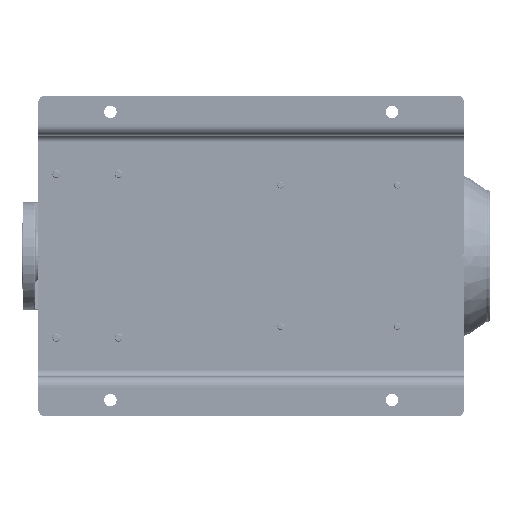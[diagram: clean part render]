
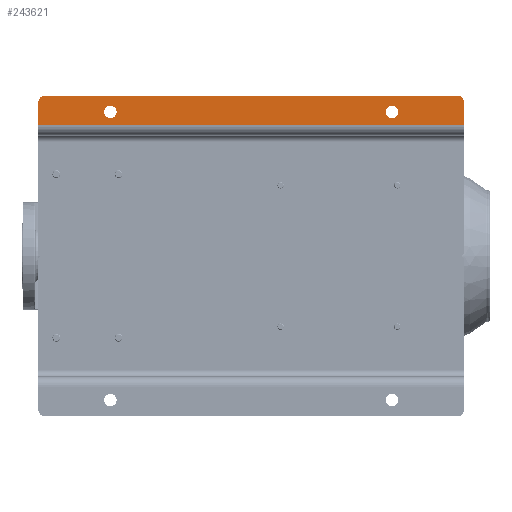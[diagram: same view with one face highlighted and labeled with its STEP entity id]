
A CAD part, front view. The second image highlights one B-rep face of the part: STEP entity #243621.
In plain terms, the highlighted planar face has unit normal (0, -1, 0).
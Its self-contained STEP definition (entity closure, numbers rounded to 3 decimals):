
#2908 = VERTEX_POINT ( 'NONE', #233701 ) ;
#4178 = EDGE_CURVE ( 'NONE', #114588, #94959, #77008, .T. ) ;
#6744 = CIRCLE ( 'NONE', #14356, 10. ) ;
#9677 = VECTOR ( 'NONE', #165456, 1000. ) ;
#11015 = VERTEX_POINT ( 'NONE', #100519 ) ;
#12087 = VERTEX_POINT ( 'NONE', #38154 ) ;
#12736 = CARTESIAN_POINT ( 'NONE',  ( 490., 0., -640. ) ) ;
#14356 = AXIS2_PLACEMENT_3D ( 'NONE', #230133, #227590, #209725 ) ;
#16695 = PLANE ( 'NONE',  #236111 ) ;
#26687 = CARTESIAN_POINT ( 'NONE',  ( 465., 0., -110. ) ) ;
#28880 = DIRECTION ( 'NONE',  ( 1., 0., 0. ) ) ;
#32539 = AXIS2_PLACEMENT_3D ( 'NONE', #90883, #209090, #169714 ) ;
#32603 = CARTESIAN_POINT ( 'NONE',  ( 429., 0., -650. ) ) ;
#37377 = CARTESIAN_POINT ( 'NONE',  ( 480., 0., 0. ) ) ;
#37777 = DIRECTION ( 'NONE',  ( 0., 0., -1. ) ) ;
#38154 = CARTESIAN_POINT ( 'NONE',  ( 480., 0., -650. ) ) ;
#39413 = DIRECTION ( 'NONE',  ( 0., 1., 0. ) ) ;
#41917 = DIRECTION ( 'NONE',  ( 0., 0., -1. ) ) ;
#45548 = VERTEX_POINT ( 'NONE', #212253 ) ;
#46627 = VECTOR ( 'NONE', #158335, 1000. ) ;
#53572 = FACE_OUTER_BOUND ( 'NONE', #152312, .T. ) ;
#57374 = FACE_BOUND ( 'NONE', #82005, .T. ) ;
#62719 = DIRECTION ( 'NONE',  ( 0., 1., 0. ) ) ;
#65780 = ORIENTED_EDGE ( 'NONE', *, *, #80267, .T. ) ;
#67028 = EDGE_CURVE ( 'NONE', #45548, #11015, #101407, .T. ) ;
#74550 = EDGE_CURVE ( 'NONE', #2908, #217827, #124005, .T. ) ;
#75762 = EDGE_CURVE ( 'NONE', #244997, #94959, #6744, .T. ) ;
#77008 = LINE ( 'NONE', #174907, #46627 ) ;
#78309 = VERTEX_POINT ( 'NONE', #138597 ) ;
#80267 = EDGE_CURVE ( 'NONE', #104970, #244997, #82068, .T. ) ;
#80499 = ORIENTED_EDGE ( 'NONE', *, *, #75762, .T. ) ;
#82005 = EDGE_LOOP ( 'NONE', ( #131978, #191292 ) ) ;
#82068 = LINE ( 'NONE', #182511, #240924 ) ;
#89246 = ORIENTED_EDGE ( 'NONE', *, *, #224856, .T. ) ;
#89626 = EDGE_CURVE ( 'NONE', #78309, #12087, #91197, .T. ) ;
#90883 = CARTESIAN_POINT ( 'NONE',  ( 465., 0., -540. ) ) ;
#91197 = LINE ( 'NONE', #32603, #190334 ) ;
#94959 = VERTEX_POINT ( 'NONE', #37377 ) ;
#100519 = CARTESIAN_POINT ( 'NONE',  ( 455.5, 0., -540. ) ) ;
#101407 = CIRCLE ( 'NONE', #251656, 9.5 ) ;
#103088 = DIRECTION ( 'NONE',  ( 0., 1., 0. ) ) ;
#103202 = ORIENTED_EDGE ( 'NONE', *, *, #74550, .T. ) ;
#104970 = VERTEX_POINT ( 'NONE', #12736 ) ;
#105381 = CARTESIAN_POINT ( 'NONE',  ( 474.5, 0., -110. ) ) ;
#106438 = ORIENTED_EDGE ( 'NONE', *, *, #229857, .T. ) ;
#114588 = VERTEX_POINT ( 'NONE', #193257 ) ;
#119284 = CARTESIAN_POINT ( 'NONE',  ( 480., 0., -640. ) ) ;
#124005 = CIRCLE ( 'NONE', #217452, 9.5 ) ;
#128714 = EDGE_LOOP ( 'NONE', ( #103202, #106438 ) ) ;
#131978 = ORIENTED_EDGE ( 'NONE', *, *, #166093, .T. ) ;
#136015 = EDGE_CURVE ( 'NONE', #114588, #78309, #167915, .T. ) ;
#136281 = CIRCLE ( 'NONE', #168768, 10. ) ;
#136819 = ORIENTED_EDGE ( 'NONE', *, *, #89626, .T. ) ;
#138597 = CARTESIAN_POINT ( 'NONE',  ( 445., 0., -650. ) ) ;
#141606 = CARTESIAN_POINT ( 'NONE',  ( 465., 0., -110. ) ) ;
#142288 = CIRCLE ( 'NONE', #32539, 9.5 ) ;
#144127 = DIRECTION ( 'NONE',  ( 0., 0., -1. ) ) ;
#152312 = EDGE_LOOP ( 'NONE', ( #233447, #198698, #136819, #89246, #65780, #80499 ) ) ;
#158335 = DIRECTION ( 'NONE',  ( 1., 0., 0. ) ) ;
#162156 = DIRECTION ( 'NONE',  ( 0., 0., 1. ) ) ;
#165456 = DIRECTION ( 'NONE',  ( 0., 0., -1. ) ) ;
#166093 = EDGE_CURVE ( 'NONE', #11015, #45548, #142288, .T. ) ;
#167915 = LINE ( 'NONE', #208523, #9677 ) ;
#168187 = CARTESIAN_POINT ( 'NONE',  ( 429., 0., -650. ) ) ;
#168768 = AXIS2_PLACEMENT_3D ( 'NONE', #119284, #231278, #37777 ) ;
#169714 = DIRECTION ( 'NONE',  ( 0., 0., -1. ) ) ;
#174907 = CARTESIAN_POINT ( 'NONE',  ( 429., 0., 0. ) ) ;
#182511 = CARTESIAN_POINT ( 'NONE',  ( 490., 0., -650. ) ) ;
#188528 = FACE_BOUND ( 'NONE', #128714, .T. ) ;
#190334 = VECTOR ( 'NONE', #28880, 1000. ) ;
#191292 = ORIENTED_EDGE ( 'NONE', *, *, #67028, .T. ) ;
#193257 = CARTESIAN_POINT ( 'NONE',  ( 445., 0., 0. ) ) ;
#198698 = ORIENTED_EDGE ( 'NONE', *, *, #136015, .T. ) ;
#208523 = CARTESIAN_POINT ( 'NONE',  ( 445., 0., -650. ) ) ;
#209090 = DIRECTION ( 'NONE',  ( 0., 1., 0. ) ) ;
#209725 = DIRECTION ( 'NONE',  ( 0., 0., -1. ) ) ;
#211377 = CARTESIAN_POINT ( 'NONE',  ( 490., 0., -10. ) ) ;
#212253 = CARTESIAN_POINT ( 'NONE',  ( 474.5, 0., -540. ) ) ;
#213785 = CARTESIAN_POINT ( 'NONE',  ( 465., 0., -540. ) ) ;
#217452 = AXIS2_PLACEMENT_3D ( 'NONE', #26687, #103088, #222506 ) ;
#217827 = VERTEX_POINT ( 'NONE', #105381 ) ;
#222506 = DIRECTION ( 'NONE',  ( 0., 0., -1. ) ) ;
#224856 = EDGE_CURVE ( 'NONE', #12087, #104970, #136281, .T. ) ;
#227263 = CIRCLE ( 'NONE', #231269, 9.5 ) ;
#227590 = DIRECTION ( 'NONE',  ( 0., -1., 0. ) ) ;
#229210 = DIRECTION ( 'NONE',  ( 0., -1., 0. ) ) ;
#229857 = EDGE_CURVE ( 'NONE', #217827, #2908, #227263, .T. ) ;
#230133 = CARTESIAN_POINT ( 'NONE',  ( 480., 0., -10. ) ) ;
#231269 = AXIS2_PLACEMENT_3D ( 'NONE', #141606, #62719, #144127 ) ;
#231278 = DIRECTION ( 'NONE',  ( 0., -1., 0. ) ) ;
#233447 = ORIENTED_EDGE ( 'NONE', *, *, #4178, .F. ) ;
#233701 = CARTESIAN_POINT ( 'NONE',  ( 455.5, 0., -110. ) ) ;
#236111 = AXIS2_PLACEMENT_3D ( 'NONE', #168187, #229210, #245705 ) ;
#240924 = VECTOR ( 'NONE', #162156, 1000. ) ;
#243621 = ADVANCED_FACE ( 'NONE', ( #188528, #57374, #53572 ), #16695, .T. ) ;
#244997 = VERTEX_POINT ( 'NONE', #211377 ) ;
#245705 = DIRECTION ( 'NONE',  ( 0., 0., -1. ) ) ;
#251656 = AXIS2_PLACEMENT_3D ( 'NONE', #213785, #39413, #41917 ) ;
